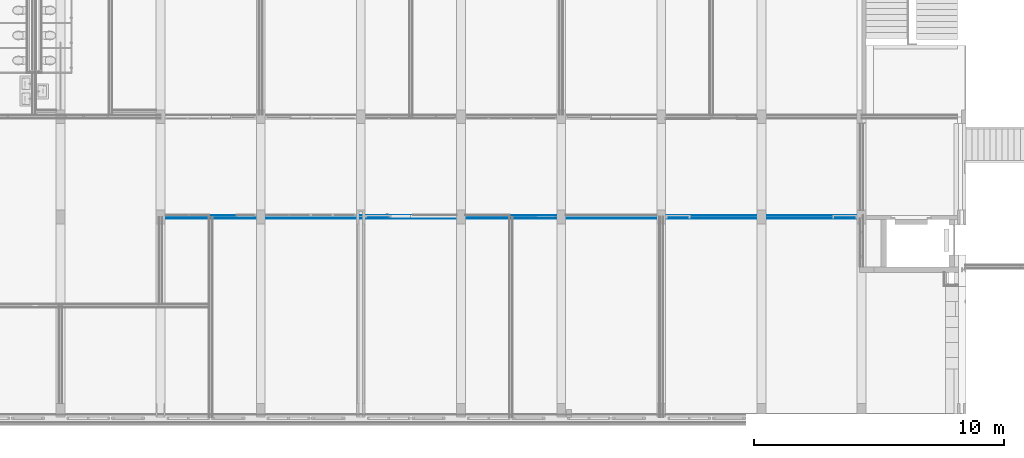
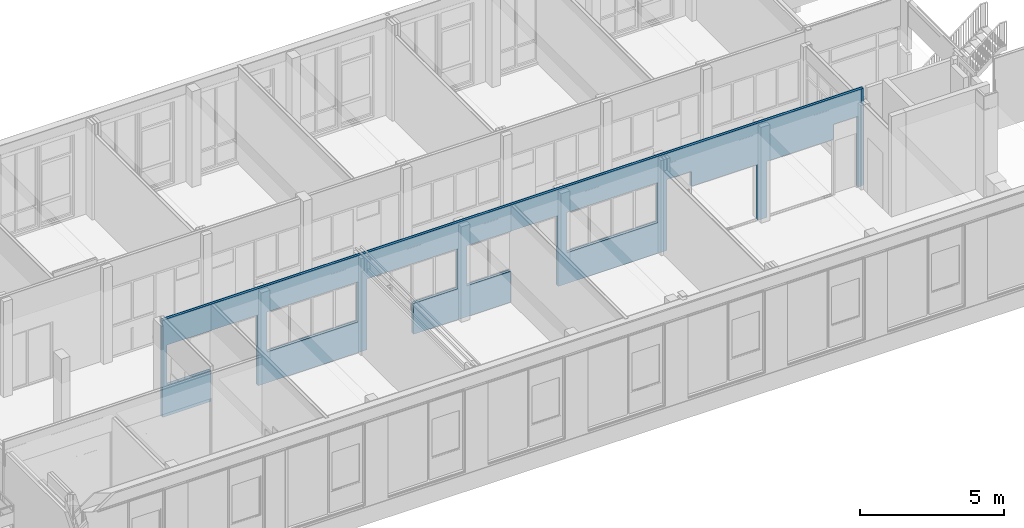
# One storey, part 40 of 94: 4 building element parts, 10 openings, 1 element without a shape of its own.
"""IFC2X3 building model written with IfcOpenShell, lengths in millimetres."""

import ifcopenshell
import ifcopenshell.guid

model = None  # the IFC model being written
_history = None  # IfcOwnerHistory: only IFC2X3 demands one
_inside = {}  # id of a spatial element -> (the spatial element, [elements in it])
_under = {}  # id of a project, library or spatial element -> (it, [spatial elements below it])
_declared = {}  # id of a project -> (the project, [libraries it declares])
_typed = {}  # id of a type object -> (the type object, [elements of that type])
_made_of = {}  # id of a material, layer set ... -> (it, [elements and type objects made of it])


def new_model(schema):
    """Start an empty IFC model of exactly this schema.

    Asked for "IFC4X3", IfcOpenShell would pick the latest addendum, in which some entities
    have other attributes; the version numbers below select the first issue.
    IFC2X3 requires an IfcOwnerHistory on every rooted entity: one is made here for all.
    """
    global model, _history
    if schema == "IFC4X3":
        model = ifcopenshell.file(schema_version=(4, 3, 0, 0))
    else:
        model = ifcopenshell.file(schema=schema)
    _inside.clear()
    _under.clear()
    _declared.clear()
    _typed.clear()
    _made_of.clear()
    _history = None
    if model.schema == "IFC2X3":
        org = make("IfcOrganization", Name="unknown")
        user = make(
            "IfcPersonAndOrganization",
            ThePerson=make("IfcPerson", FamilyName="unknown"),
            TheOrganization=org,
        )
        app = make(
            "IfcApplication",
            ApplicationDeveloper=org,
            Version="unknown",
            ApplicationFullName="unknown",
            ApplicationIdentifier="unknown",
        )
        _history = make(
            "IfcOwnerHistory",
            OwningUser=user,
            OwningApplication=app,
            ChangeAction="ADDED",
            CreationDate=0,
        )
    return model


def make(cls, **values):
    """One entity of the class cls with the attributes given. An attribute that is None is left unset."""
    return model.create_entity(
        cls, **{name: value for name, value in values.items() if value is not None}
    )


def entity(cls, *values):
    """Any entity or typed value of the class cls, its attributes in the order of the schema. None: left unset."""
    e = model.create_entity(cls)
    for i, value in enumerate(values):
        if value is not None:
            e[i] = value
    return e


def rooted(cls, **values):
    """An entity with a GlobalId (a new one), such as an element, a storey or a relation."""
    return make(cls, GlobalId=ifcopenshell.guid.new(), OwnerHistory=_history, **values)


def si_unit(unit_type, name, prefix=None):
    """IfcSIUnit, for example si_unit("LENGTHUNIT", "METRE", prefix="MILLI")."""
    return make("IfcSIUnit", UnitType=unit_type, Prefix=prefix, Name=name)


def converted_unit(unit_type, name, factor, base, dimensions=None, offset=None):
    """IfcConversionBasedUnit, such as the inch: factor (a typed value) times the base unit."""
    return make(
        "IfcConversionBasedUnit"
        if offset is None
        else "IfcConversionBasedUnitWithOffset",
        ConversionOffset=offset,
        Dimensions=None
        if dimensions is None
        else entity("IfcDimensionalExponents", *dimensions),
        UnitType=unit_type,
        Name=name,
        ConversionFactor=make(
            "IfcMeasureWithUnit", ValueComponent=factor, UnitComponent=base
        ),
    )


def derived_unit(unit_type, elements):
    """IfcDerivedUnit: a product of units, each with its exponent."""
    return make(
        "IfcDerivedUnit",
        Elements=[
            make("IfcDerivedUnitElement", Unit=unit, Exponent=power)
            for unit, power in elements
        ],
        UnitType=unit_type,
    )


def money_unit(currency):
    """IfcMonetaryUnit."""
    return make("IfcMonetaryUnit", Currency=currency)


def assignment(units):
    """IfcUnitAssignment: the units of a project."""
    return None if units is None else make("IfcUnitAssignment", Units=units)


def point(xyz):
    """IfcCartesianPoint."""
    return None if xyz is None else make("IfcCartesianPoint", Coordinates=xyz)


def direction(xyz):
    """IfcDirection."""
    return None if xyz is None else make("IfcDirection", DirectionRatios=xyz)


def frame(location, z_axis=None, x_axis=None):
    """IfcAxis2Placement3D, a coordinate frame: its origin and axes. An axis left out is left unset."""
    return make(
        "IfcAxis2Placement3D",
        Location=point(location),
        Axis=direction(z_axis),
        RefDirection=direction(x_axis),
    )


def origin_with_axes():
    """The frame at (0, 0, 0) with the z axis (0, 0, 1) and the x axis (1, 0, 0) written out."""
    return frame((0.0, 0.0, 0.0), z_axis=(0.0, 0.0, 1.0), x_axis=(1.0, 0.0, 0.0))


def place(relative_to, where):
    """IfcLocalPlacement: puts the frame where relative to a parent placement (None: the world)."""
    return make(
        "IfcLocalPlacement", PlacementRelTo=relative_to, RelativePlacement=where
    )


def context(
    kind, dimensions, precision=None, world=None, true_north=None, identifier=None
):
    """IfcGeometricRepresentationContext, for example the 3D "Model" context."""
    return make(
        "IfcGeometricRepresentationContext",
        ContextIdentifier=identifier,
        ContextType=kind,
        CoordinateSpaceDimension=dimensions,
        Precision=precision,
        WorldCoordinateSystem=world,
        TrueNorth=true_north,
    )


def subcontext(parent, identifier, kind, view, scale=None):
    """IfcGeometricRepresentationSubContext, for example "Body" below "Model"."""
    return make(
        "IfcGeometricRepresentationSubContext",
        ContextIdentifier=identifier,
        ContextType=kind,
        ParentContext=parent,
        TargetScale=scale,
        TargetView=view,
    )


def project(units=None, contexts=None):
    """IfcProject with its units and contexts."""
    return rooted(
        "IfcProject",
        Name="project",
        RepresentationContexts=contexts,
        UnitsInContext=assignment(units),
    )


def spatial(cls, under=None, at=None, **own):
    """A site, building, storey or space (cls), placed at a placement, below another one or the project."""
    s = rooted(cls, ObjectPlacement=at, **own)
    if under is not None:
        _under.setdefault(under.id(), (under, []))[1].append(s)
    return s


def faces_of(points, faces, orient=None, outer=None):
    """IfcFace entities. A face is a list of loops; a loop is a list of indices into points, from 0.

    orient and outer hold one flag for each loop. By default every Orientation is true, the
    first loop of a face is its IfcFaceOuterBound and the others are IfcFaceBound.
    """
    made = []
    for i, loops in enumerate(faces):
        bounds = []
        for j, loop in enumerate(loops):
            is_outer = j == 0 if outer is None else outer[i][j]
            bounds.append(
                make(
                    "IfcFaceOuterBound" if is_outer else "IfcFaceBound",
                    Bound=make("IfcPolyLoop", Polygon=[points[k] for k in loop]),
                    Orientation=True if orient is None else orient[i][j],
                )
            )
        made.append(make("IfcFace", Bounds=bounds))
    return made


def faceted_brep(points, faces, orient=None, outer=None, voids=None):
    """IfcFacetedBrep: a solid bounded by flat faces; with voids (closed shells), ...WithVoids."""
    shared = [point(p) for p in points]
    hull = make("IfcClosedShell", CfsFaces=faces_of(shared, faces, orient, outer))
    if voids is None:
        return make("IfcFacetedBrep", Outer=hull)
    return make(
        "IfcFacetedBrepWithVoids",
        Outer=hull,
        Voids=[
            make(cls, CfsFaces=faces_of(shared, fs, o, b)) for cls, fs, o, b in voids
        ],
    )


def shape(context_of_items, identifier, shape_type, items):
    """IfcShapeRepresentation: the items that make up one representation, for example the "Body"."""
    return make(
        "IfcShapeRepresentation",
        ContextOfItems=context_of_items,
        RepresentationIdentifier=identifier,
        RepresentationType=shape_type,
        Items=items,
    )


def material(Name=None, Category=None):
    """IfcMaterial."""
    return make("IfcMaterial", Name=Name, Category=Category)


def made_of(thing, what):
    """Note that an element or type object is made of a material, layer set ...; save() writes the relation."""
    if what is not None:
        _made_of.setdefault(what.id(), (what, []))[1].append(thing)
    return thing


def type_object(cls, material=None, **own):
    """A type object (cls), such as IfcWallType, which elements share."""
    return made_of(rooted(cls, **own), material)


def element(
    cls,
    number,
    at=None,
    inside=None,
    cuts=None,
    type_object=None,
    material=None,
    context=None,
    identifier="Body",
    shape_type=None,
    held_by="IfcProductDefinitionShape",
    body=None,
    shapes=None,
    **own,
):
    """One element of the class cls, such as IfcWall. Its Tag is "e" and its number.

    at: its placement. inside: the storey or other place that contains it. cuts: it is an
    opening in that element (IfcRelVoidsElement). A single representation is given by context,
    identifier, shape_type and body (its items); several are given by shapes. held_by: the class
    of the entity that holds the representations. save() writes the other relations.
    """
    e = rooted(cls, Tag="e%d" % number, ObjectPlacement=at, **own)
    if body is not None:
        shapes = [shape(context, identifier, shape_type, body)]
    if shapes is not None:
        e.Representation = make(held_by, Representations=shapes)
    if inside is not None:
        _inside.setdefault(inside.id(), (inside, []))[1].append(e)
    if cuts is not None:
        rooted(
            "IfcRelVoidsElement", RelatingBuildingElement=cuts, RelatedOpeningElement=e
        )
    if type_object is not None:
        _typed.setdefault(type_object.id(), (type_object, []))[1].append(e)
    return made_of(e, material)


def aggregate(whole, parts):
    """IfcRelAggregates: a whole, such as a stair, and the parts it consists of."""
    return rooted("IfcRelAggregates", RelatingObject=whole, RelatedObjects=parts)


def save(model, path):
    """Write the relations noted so far, then the file.

    IfcRelAggregates (storeys below a building ...), IfcRelContainedInSpatialStructure (elements
    in a storey), IfcRelDefinesByType, IfcRelAssociatesMaterial and IfcRelDeclares: one each for
    every whole, place, type object, material and project.
    """
    for whole, parts in _under.values():
        aggregate(whole, parts)
    for where, things in _inside.values():
        rooted(
            "IfcRelContainedInSpatialStructure",
            RelatedElements=things,
            RelatingStructure=where,
        )
    for kind, things in _typed.values():
        rooted("IfcRelDefinesByType", RelatedObjects=things, RelatingType=kind)
    for what, things in _made_of.values():
        rooted("IfcRelAssociatesMaterial", RelatedObjects=things, RelatingMaterial=what)
    for by, libraries in _declared.values():
        rooted("IfcRelDeclares", RelatingContext=by, RelatedDefinitions=libraries)
    model.write(path)


model = new_model("IFC2X3")

# Units and contexts
model_context = context("Model", 3, precision=0.01, world=origin_with_axes(), true_north=direction((0.0, 1.0)))
body_context = subcontext(model_context, "Body", "Model", "MODEL_VIEW")
ifc_project = project(units=[si_unit("LENGTHUNIT", "METRE", prefix="MILLI"), si_unit("AREAUNIT", "SQUARE_METRE"), si_unit("VOLUMEUNIT", "CUBIC_METRE"), converted_unit("PLANEANGLEUNIT", "DEGREE", entity("IfcPlaneAngleMeasure", 0.0174532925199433), si_unit("PLANEANGLEUNIT", "RADIAN"), dimensions=[0, 0, 0, 0, 0, 0, 0]), money_unit("EUR"), converted_unit("TIMEUNIT", "Year", entity("IfcTimeMeasure", 31557600.0), si_unit("TIMEUNIT", "SECOND"), dimensions=[0, 0, 1, 0, 0, 0, 0]), si_unit("MASSUNIT", "GRAM", prefix="KILO"), si_unit("THERMODYNAMICTEMPERATUREUNIT", "DEGREE_CELSIUS"), si_unit("LUMINOUSINTENSITYUNIT", "LUMEN"), si_unit("ENERGYUNIT", "JOULE", prefix="MEGA"), derived_unit("THERMALCONDUCTANCEUNIT", [(si_unit("POWERUNIT", "WATT"), 1), (si_unit("LENGTHUNIT", "METRE"), -1), (si_unit("THERMODYNAMICTEMPERATUREUNIT", "KELVIN"), -1)]), derived_unit("SPECIFICHEATCAPACITYUNIT", [(si_unit("ENERGYUNIT", "JOULE"), 1), (si_unit("MASSUNIT", "GRAM", prefix="KILO"), -1), (si_unit("THERMODYNAMICTEMPERATUREUNIT", "KELVIN"), -1)]), derived_unit("MASSDENSITYUNIT", [(si_unit("MASSUNIT", "GRAM", prefix="KILO"), 1), (si_unit("VOLUMEUNIT", "CUBIC_METRE"), -1)])], contexts=[model_context])

# Site, building, storey
site_placement = place(None, origin_with_axes())
site = spatial("IfcSite", under=ifc_project, at=site_placement, Name="<site naam>", CompositionType="ELEMENT")
building_placement = place(site_placement, origin_with_axes())
building = spatial("IfcBuilding", under=site, at=building_placement, Name="<Naam gebouw>", CompositionType="ELEMENT")
storey_placement = place(building_placement, frame((0.0, 0.0, 4250.0), z_axis=(0.0, 0.0, 1.0), x_axis=(1.0, 0.0, 0.0)))
storey = spatial("IfcBuildingStorey", under=building, at=storey_placement, Name="01 1e verdieping", CompositionType="ELEMENT", Elevation=4250.0)

# Wall, openings, building element parts
wall_type = type_object("IfcWallType", Name="MS-01 GF 150 ECO DGS/2.100.2.A 150", PredefinedType="NOTDEFINED")
wall_placement = place(storey_placement, frame((20000.00000000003, 8000.000000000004, 0.0), z_axis=(0.0, 0.0, 1.0), x_axis=(1.0, 0.0, 0.0)))
wall = element("IfcWall", 1, at=wall_placement, inside=storey, type_object=wall_type, Name="22_Binnenwand_MS-01")
opening_1_placement = place(wall_placement, frame((5999.950000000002, 0.0, 1300.0), z_axis=(0.0, 0.0, 1.0), x_axis=(1.0, 0.0, 0.0)))
element("IfcOpeningElement", 2, at=opening_1_placement, cuts=wall, Name="22_BI-E-01_305", context=body_context, shape_type="Brep", body=[
    faceted_brep([(-1824.950000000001, -76.00000000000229, 1700.0), (-1824.950000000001, -76.00000000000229, 0.0), (1824.950000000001, -76.00000000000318, 0.0), (1824.950000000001, -76.00000000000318, 1700.0), (-1824.950000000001, 76.00000000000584, 1700.0), (-1824.950000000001, 76.00000000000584, 0.0), (1824.950000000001, 76.00000000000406, 0.0), (1824.950000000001, 76.00000000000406, 1700.0)], [[[0, 1, 2, 3]], [[4, 5, 1, 0]], [[5, 6, 2, 1]], [[6, 7, 3, 2]], [[7, 4, 0, 3]], [[6, 5, 4, 7]]]),
])
opening_2_placement = place(wall_placement, frame((10900.0, 0.0, 1300.0), z_axis=(0.0, 0.0, 1.0), x_axis=(1.0, 0.0, 0.0)))
element("IfcOpeningElement", 3, at=opening_2_placement, cuts=wall, Name="22_BI-E-01_305", context=body_context, shape_type="Brep", body=[
    faceted_brep([(-925.0000000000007, -76.00000000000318, 1700.0), (-925.0000000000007, -76.00000000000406, 0.0), (925.0000000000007, -76.00000000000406, 0.0), (925.0000000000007, -76.00000000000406, 1700.0), (-925.0000000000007, 76.00000000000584, 1700.0), (-925.0000000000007, 76.00000000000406, 0.0), (925.0000000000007, 76.00000000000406, 0.0), (925.0000000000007, 76.00000000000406, 1700.0)], [[[0, 1, 2, 3]], [[4, 5, 1, 0]], [[5, 6, 2, 1]], [[6, 7, 3, 2]], [[7, 4, 0, 3]], [[6, 5, 4, 7]]]),
])
opening_3_placement = place(wall_placement, frame((17999.95, 0.0, 1300.0), z_axis=(0.0, 0.0, 1.0), x_axis=(1.0, 0.0, 0.0)))
element("IfcOpeningElement", 4, at=opening_3_placement, cuts=wall, Name="22_BI-E-01_305", context=body_context, shape_type="Brep", body=[
    faceted_brep([(-1824.950000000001, -76.00000000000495, 1700.0), (-1824.950000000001, -76.00000000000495, 0.0), (1824.950000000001, -76.00000000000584, 0.0), (1824.950000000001, -76.00000000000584, 1700.0), (-1824.950000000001, 76.00000000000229, 1700.0), (-1824.950000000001, 76.00000000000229, 0.0), (1824.950000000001, 76.00000000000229, 0.0), (1824.950000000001, 76.00000000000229, 1700.0)], [[[0, 1, 2, 3]], [[4, 5, 1, 0]], [[5, 6, 2, 1]], [[6, 7, 3, 2]], [[7, 4, 0, 3]], [[6, 5, 4, 7]]]),
])
opening_4_placement = place(wall_placement, frame((20667.0, 0.0, 0.0), z_axis=(0.0, 0.0, 1.0), x_axis=(1.0, 0.0, 0.0)))
element("IfcOpeningElement", 5, at=opening_4_placement, cuts=wall, Name="22_BI-E-04_305", context=body_context, shape_type="Brep", body=[
    faceted_brep([(-491.9999999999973, -76.00000000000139, 3000.0), (-491.9999999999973, -76.00000000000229, 0.0), (491.9999999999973, -76.00000000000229, 0.0), (491.9999999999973, -76.00000000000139, 3000.0), (-491.9999999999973, 75.99999999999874, 3000.0), (-491.9999999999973, 75.99999999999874, 0.0), (491.9999999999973, 75.99999999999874, 0.0), (491.9999999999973, 75.99999999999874, 3000.0)], [[[0, 1, 2, 3]], [[4, 5, 1, 0]], [[5, 6, 2, 1]], [[6, 7, 3, 2]], [[7, 4, 0, 3]], [[6, 5, 4, 7]]]),
])
opening_5_placement = place(wall_placement, frame((9108.499962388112, 0.0, 0.0), z_axis=(0.0, 0.0, 1.0), x_axis=(1.0, 0.0, 0.0)))
element("IfcOpeningElement", 6, at=opening_5_placement, cuts=wall, Name="22_BI-E-02_305", context=body_context, shape_type="Brep", body=[
    faceted_brep([(-933.4999999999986, -76.00000000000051, 3000.0), (-933.4999999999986, -76.00000000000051, 0.0), (933.4999999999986, -76.00000000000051, 0.0), (933.4999999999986, -76.00000000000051, 3000.0), (-933.4999999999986, 75.99999999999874, 3000.0), (-933.4999999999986, 75.99999999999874, 0.0), (933.4999999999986, 75.99999999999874, 0.0), (933.4999999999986, 75.99999999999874, 3000.0)], [[[0, 1, 2, 3]], [[4, 5, 1, 0]], [[5, 6, 2, 1]], [[6, 7, 3, 2]], [[7, 4, 0, 3]], [[6, 5, 4, 7]]]),
])
opening_6_placement = place(wall_placement, frame((1999.999999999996, 0.0, 0.0), z_axis=(0.0, 0.0, 1.0), x_axis=(1.0, 0.0, 0.0)))
element("IfcOpeningElement", 7, at=opening_6_placement, cuts=wall, Name="22_BI-E-03_305", context=body_context, shape_type="Brep", body=[
    faceted_brep([(-1825.000000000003, -76.00000000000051, 3000.0), (-1825.000000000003, -76.00000000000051, 1300.0), (-58.86501235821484, -76.00000000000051, 1300.0), (-58.86501235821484, -76.00000000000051, 0.0), (1825.000000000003, -76.00000000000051, 0.0), (1825.000000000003, -76.00000000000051, 3000.0), (-1825.000000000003, 75.99999999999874, 3000.0), (-1825.000000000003, 75.99999999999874, 1300.0), (-58.86501235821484, 75.99999999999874, 1300.0), (-58.86501235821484, 75.99999999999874, 0.0), (1825.000000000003, 75.99999999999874, 0.0), (1825.000000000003, 75.99999999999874, 3000.0)], [[[0, 1, 2, 3, 4, 5]], [[6, 7, 1, 0]], [[7, 8, 2, 1]], [[8, 9, 3, 2]], [[9, 10, 4, 3]], [[10, 11, 5, 4]], [[11, 6, 0, 5]], [[8, 7, 6, 11, 10, 9]]]),
])
opening_7_placement = place(wall_placement, frame((22491.99999999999, 0.0, 0.0), z_axis=(0.0, 0.0, 1.0), x_axis=(1.0, 0.0, 0.0)))
element("IfcOpeningElement", 8, at=opening_7_placement, cuts=wall, Name="22_vitrine_305", context=body_context, shape_type="Brep", body=[
    faceted_brep([(-1333.000000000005, -76.00000000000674, 2367.0), (-1333.000000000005, -76.00000000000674, 0.0), (1333.000000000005, -76.00000000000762, 0.0), (1333.000000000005, -76.00000000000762, 2367.0), (-1333.000000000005, 76.00000000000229, 2367.0), (-1333.000000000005, 76.00000000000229, 0.0), (1333.000000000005, 76.00000000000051, 0.0), (1333.000000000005, 76.00000000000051, 2367.0)], [[[0, 1, 2, 3]], [[4, 5, 1, 0]], [[5, 6, 2, 1]], [[6, 7, 3, 2]], [[7, 4, 0, 3]], [[6, 5, 4, 7]]]),
])
opening_8_placement = place(wall_placement, frame((27333.0, 0.0, 0.0), z_axis=(0.0, 0.0, 1.0), x_axis=(1.0, 0.0, 0.0)))
element("IfcOpeningElement", 9, at=opening_8_placement, cuts=wall, Name="22_BI-E-04 sp_305", context=body_context, shape_type="Brep", body=[
    faceted_brep([(-491.9999999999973, -76.00000000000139, 3000.0), (-491.9999999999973, -76.00000000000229, 0.0), (491.9999999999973, -76.00000000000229, 0.0), (491.9999999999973, -76.00000000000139, 3000.0), (-491.9999999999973, 75.99999999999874, 3000.0), (-491.9999999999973, 75.99999999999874, 0.0), (491.9999999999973, 75.99999999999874, 0.0), (491.9999999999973, 75.99999999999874, 3000.0)], [[[0, 1, 2, 3]], [[4, 5, 1, 0]], [[5, 6, 2, 1]], [[6, 7, 3, 2]], [[7, 4, 0, 3]], [[6, 5, 4, 7]]]),
])
opening_9_placement = place(wall_placement, frame((25508.0, 0.0, 0.0), z_axis=(0.0, 0.0, 1.0), x_axis=(1.0, 0.0, 0.0)))
element("IfcOpeningElement", 10, at=opening_9_placement, cuts=wall, Name="22_vitrine_305", context=body_context, shape_type="Brep", body=[
    faceted_brep([(-1333.000000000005, -76.0000000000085, 2367.0), (-1333.000000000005, -76.0000000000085, 0.0), (1333.000000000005, -76.0000000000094, 0.0), (1333.000000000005, -76.0000000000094, 2367.0), (-1333.000000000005, 76.00000000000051, 2367.0), (-1333.000000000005, 76.00000000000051, 0.0), (1333.000000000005, 75.99999999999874, 0.0), (1333.000000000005, 75.99999999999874, 2367.0)], [[[0, 1, 2, 3]], [[4, 5, 1, 0]], [[5, 6, 2, 1]], [[6, 7, 3, 2]], [[7, 4, 0, 3]], [[6, 5, 4, 7]]]),
])
opening_10_placement = place(wall_placement, frame((14000.0, 0.0, 0.0), z_axis=(0.0, 0.0, 1.0), x_axis=(1.0, 0.0, 0.0)))
element("IfcOpeningElement", 11, at=opening_10_placement, cuts=wall, Name="22_BI-E-03_305", context=body_context, shape_type="Brep", body=[
    faceted_brep([(-1825.000000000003, -76.00000000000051, 3000.0), (-1825.000000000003, -76.00000000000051, 1300.0), (-58.86501235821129, -76.00000000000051, 1300.0), (-58.86501235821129, -76.00000000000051, 0.0), (1825.000000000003, -76.00000000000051, 0.0), (1825.000000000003, -76.00000000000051, 3000.0), (-1825.000000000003, 75.99999999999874, 3000.0), (-1825.000000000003, 75.99999999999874, 1300.0), (-58.86501235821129, 75.99999999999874, 1300.0), (-58.86501235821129, 75.99999999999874, 0.0), (1825.000000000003, 75.99999999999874, 0.0), (1825.000000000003, 75.99999999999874, 3000.0)], [[[0, 1, 2, 3, 4, 5]], [[6, 7, 1, 0]], [[7, 8, 2, 1]], [[8, 9, 3, 2]], [[9, 10, 4, 3]], [[10, 11, 5, 4]], [[11, 6, 0, 5]], [[8, 7, 6, 11, 10, 9]]]),
])
ifc_material_1 = material(Name="gipsplaat")
building_element_part_1_placement = place(wall_placement, origin_with_axes())
building_element_part_1 = element("IfcBuildingElementPart", 12, at=building_element_part_1_placement, material=ifc_material_1, Name="gipsplaat", context=body_context, shape_type="Brep", body=[
    faceted_brep([(27824.84546316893, 69.65970006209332, 0.0), (27824.84546316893, 69.65970006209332, 3.000000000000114), (27825.00000000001, 69.65970006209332, 3.000000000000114), (27825.00000000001, 69.65970006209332, 0.0), (27824.84546316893, 62.50000000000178, 0.0), (27824.84546316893, 62.50000000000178, 3.000000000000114), (26802.24525226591, 62.50000000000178, 3.000000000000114), (26802.24525226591, 69.65970006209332, 3.000000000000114), (24175.0, 69.65970006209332, 3.000000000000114), (24175.0, 75.00000000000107, 3.000000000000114), (27825.00000000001, 75.00000000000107, 3.000000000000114), (27825.00000000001, 75.00000000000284, 0.0), (28074.99999999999, 75.00000000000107, 0.0), (28074.99999999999, 62.50000000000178, 0.0), (28074.99999999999, 62.50000000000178, 4100.0), (0.0, 62.5, 4100.0), (0.0, 62.5, 0.0), (2075.011460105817, 62.5, 0.0), (2075.011460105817, 62.5, 3.000000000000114), (3065.428474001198, 62.5, 3.000000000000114), (3065.428474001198, 62.5, 0.0), (20174.84544567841, 62.50000000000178, 0.0), (20174.84544567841, 62.50000000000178, 3.000000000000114), (21233.16318385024, 62.5, 3.000000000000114), (21233.16318385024, 62.50000000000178, 0.0), (26802.24525226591, 62.50000000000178, 0.0), (8174.999962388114, 62.5, 1.999999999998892), (8174.999962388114, 62.5, 4.999999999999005), (10081.0, 62.5, 4.999999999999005), (10081.0, 62.5, 1.999999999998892), (14075.00014170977, 62.5, 19.99999999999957), (14075.00014170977, 62.5, 22.99999999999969), (15067.27063228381, 62.5, 22.99999999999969), (15067.27063228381, 62.5, 19.99999999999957), (26802.24525226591, 69.65970006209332, 0.0), (24175.0, 69.65970006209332, 0.0), (24175.0, 75.00000000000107, 0.0), (20174.84544567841, 75.00002980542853, 3.000000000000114), (20174.84544567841, 75.00002980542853, 0.0), (19824.99999999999, 75.00000000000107, 0.0), (19824.99999999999, 75.00000000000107, 3.000000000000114), (16175.0, 74.99999999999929, 3.000000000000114), (16175.0, 74.99999999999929, 0.0), (15824.99999999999, 74.99999999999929, 0.0), (15824.99999999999, 75.00000000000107, 3.000000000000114), (12175.0, 74.99999999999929, 3.000000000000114), (12175.0, 74.99999999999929, 0.0), (11824.99999999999, 74.99999999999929, 0.0), (11824.99999999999, 74.99999999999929, 3.000000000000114), (10081.0, 74.99999999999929, 3.000000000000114), (10081.0, 74.99999999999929, 4.999999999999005), (8174.999962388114, 74.99999999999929, 4.999999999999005), (8174.999962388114, 74.99999999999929, 3.000000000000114), (8175.000000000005, 74.99999999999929, 0.0), (7825.000000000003, 74.99999999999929, 0.0), (7825.000000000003, 74.99999999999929, 3.000000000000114), (4175.000000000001, 74.99999999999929, 3.000000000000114), (4175.000000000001, 74.99999999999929, 0.0), (3824.999999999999, 74.99999999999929, 0.0), (3824.999999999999, 74.99999999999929, 3.000000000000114), (175.0000000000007, 74.99999999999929, 3.000000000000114), (175.0000000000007, 74.99999999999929, 0.0), (0.0, 74.99999999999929, 0.0), (0.0, 75.00000000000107, 4100.0), (28074.99999999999, 75.00000000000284, 4100.0), (23824.99999999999, 75.00000000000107, 0.0), (23824.99999999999, 75.00000000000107, 3.000000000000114), (20175.0, 75.00002980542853, 3.000000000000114), (175.0000000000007, 74.99999999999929, 3000.0), (3825.000000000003, 74.99999999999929, 3000.0), (3825.000000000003, 74.99999999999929, 3040.0), (175.0000000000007, 74.99999999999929, 3040.0), (4175.000000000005, 74.99999999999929, 3000.0), (7824.999999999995, 74.99999999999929, 3000.0), (7824.999999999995, 74.99999999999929, 3040.0), (4175.000000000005, 74.99999999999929, 3040.0), (8174.999999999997, 74.99999999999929, 3000.0), (11825.00000000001, 74.99999999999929, 3000.0), (11825.00000000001, 75.00000000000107, 3040.0), (8174.999999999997, 74.99999999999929, 3040.0), (12175.0, 75.00000000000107, 3000.0), (15825.00000000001, 75.00000000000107, 3000.0), (15825.00000000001, 75.00000000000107, 3040.0), (12175.0, 74.99999999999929, 3040.0), (16175.0, 75.00000000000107, 3000.0), (19825.00000000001, 75.00000000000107, 3000.0), (19825.00000000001, 75.00000000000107, 3040.0), (16175.0, 75.00000000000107, 3040.0), (20175.0, 75.00000000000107, 3000.0), (23825.00000000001, 75.00000000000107, 3000.0), (23825.00000000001, 75.00000000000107, 3040.0), (20175.0, 75.00000000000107, 3040.0), (24175.0, 75.00000000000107, 3000.0), (27825.00000000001, 75.00000000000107, 3000.0), (27825.00000000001, 75.00000000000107, 3040.0), (24175.0, 75.00000000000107, 3040.0), (14075.00014170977, 74.99999999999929, 19.99999999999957), (15067.27063228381, 75.00000000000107, 19.99999999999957), (15067.27063228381, 75.00000000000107, 22.99999999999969), (14075.00014170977, 74.99999999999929, 22.99999999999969), (2075.011470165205, 69.65970006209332, 0.0), (175.0000000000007, 69.65970006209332, 0.0), (2075.011470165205, 69.65970006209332, 3.000000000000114), (3065.428474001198, 69.65970006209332, 3.000000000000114), (175.0000000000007, 69.65970006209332, 3.000000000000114), (3824.999999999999, 69.65970006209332, 3.000000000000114), (3065.428474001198, 69.65970006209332, 0.0), (3824.999999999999, 69.65970006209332, 0.0), (4175.000000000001, 69.65970006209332, 0.0), (7825.000000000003, 69.65970006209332, 0.0), (8175.000000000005, 69.65970006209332, 0.0), (11824.99999999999, 69.65970006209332, 0.0), (12175.0, 69.65970006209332, 0.0), (15824.99999999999, 69.65970006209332, 0.0), (16175.0, 69.65970006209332, 0.0), (19824.99999999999, 69.65970006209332, 0.0), (23824.99999999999, 69.65970006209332, 3.000000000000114), (21233.16318385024, 69.65970006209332, 3.000000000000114), (21233.16318385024, 69.65970006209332, 0.0), (23824.99999999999, 69.65970006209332, 0.0), (8174.999962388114, 69.65970006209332, 1.999999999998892), (8174.999962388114, 69.65970006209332, 3.000000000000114), (10081.0, 69.65970006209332, 3.000000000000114), (10081.0, 69.65970006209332, 1.999999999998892), (19824.99999999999, 69.65970006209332, 3.000000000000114), (16175.0, 69.65970006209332, 3.000000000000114), (15824.99999999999, 69.65970006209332, 3.000000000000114), (12175.0, 69.65970006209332, 3.000000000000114), (11824.99999999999, 69.65970006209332, 3.000000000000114), (7825.000000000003, 69.65970006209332, 3.000000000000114), (4175.000000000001, 69.65970006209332, 3.000000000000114), (175.0000000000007, 74.4359511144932, 3000.0), (3825.000000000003, 74.4359511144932, 3000.0), (3825.000000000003, 74.4359511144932, 3040.0), (175.0000000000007, 74.4359511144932, 3040.0), (4175.000000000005, 74.4359511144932, 3000.0), (7824.999999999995, 74.4359511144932, 3000.0), (7824.999999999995, 74.4359511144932, 3040.0), (4175.000000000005, 74.4359511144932, 3040.0), (8174.999999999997, 74.4359511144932, 3000.0), (11825.00000000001, 74.4359511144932, 3000.0), (11825.00000000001, 74.4359511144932, 3040.0), (8174.999999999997, 74.4359511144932, 3040.0), (12175.0, 74.4359511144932, 3000.0), (15825.00000000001, 74.4359511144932, 3000.0), (15825.00000000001, 74.4359511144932, 3040.0), (12175.0, 74.4359511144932, 3040.0), (16175.0, 74.4359511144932, 3000.0), (19825.00000000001, 74.4359511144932, 3000.0), (19825.00000000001, 74.4359511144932, 3040.0), (16175.0, 74.4359511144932, 3040.0), (20175.0, 74.4359511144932, 3000.0), (23825.00000000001, 74.4359511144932, 3000.0), (23825.00000000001, 74.4359511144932, 3040.0), (20175.0, 74.4359511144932, 3040.0), (24175.0, 74.4359511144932, 3000.0), (27825.00000000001, 74.4359511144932, 3000.0), (27825.00000000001, 74.4359511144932, 3040.0), (24175.0, 74.4359511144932, 3040.0)], [[[0, 1, 2, 3]], [[1, 0, 4, 5]], [[1, 5, 6, 7, 8, 9, 10, 2]], [[10, 11, 3, 2]], [[4, 0, 3, 11, 12, 13]], [[5, 4, 13, 14, 15, 16, 17, 18, 19, 20, 21, 22, 23, 24, 25, 6], [26, 27, 28, 29], [30, 31, 32, 33]], [[34, 7, 6, 25]], [[7, 34, 35, 8]], [[36, 9, 8, 35]], [[37, 38, 39, 40, 41, 42, 43, 44, 45, 46, 47, 48, 49, 50, 51, 52, 53, 54, 55, 56, 57, 58, 59, 60, 61, 62, 63, 64, 12, 11, 10, 9, 36, 65, 66, 67], [68, 69, 70, 71], [72, 73, 74, 75], [76, 77, 78, 79], [80, 81, 82, 83], [84, 85, 86, 87], [88, 89, 90, 91], [92, 93, 94, 95], [96, 97, 98, 99]], [[13, 12, 64, 14]], [[14, 64, 63, 15]], [[63, 62, 16, 15]], [[100, 17, 16, 62, 61, 101]], [[100, 102, 18, 17]], [[103, 19, 18, 102, 104, 60, 59, 105]], [[103, 106, 20, 19]], [[38, 21, 20, 106, 107, 58, 57, 108, 109, 54, 53, 110, 111, 47, 46, 112, 113, 43, 42, 114, 115, 39]], [[38, 37, 22, 21]], [[67, 66, 116, 117, 23, 22, 37]], [[117, 118, 24, 23]], [[34, 25, 24, 118, 119, 65, 36, 35]], [[52, 51, 27, 26, 120, 121]], [[51, 50, 28, 27]], [[50, 49, 122, 123, 29, 28]], [[123, 120, 26, 29]], [[96, 99, 31, 30]], [[99, 98, 32, 31]], [[98, 97, 33, 32]], [[97, 96, 30, 33]], [[40, 39, 115, 124]], [[41, 40, 124, 125]], [[42, 41, 125, 114]], [[44, 43, 113, 126]], [[45, 44, 126, 127]], [[46, 45, 127, 112]], [[48, 47, 111, 128]], [[122, 49, 48, 128]], [[121, 120, 110, 53, 52]], [[55, 54, 109, 129]], [[56, 55, 129, 130]], [[57, 56, 130, 108]], [[59, 58, 107, 105]], [[61, 60, 104, 101]], [[66, 65, 119, 116]], [[69, 68, 131, 132]], [[70, 69, 132, 133]], [[71, 70, 133, 134]], [[68, 71, 134, 131]], [[73, 72, 135, 136]], [[74, 73, 136, 137]], [[75, 74, 137, 138]], [[72, 75, 138, 135]], [[77, 76, 139, 140]], [[78, 77, 140, 141]], [[79, 78, 141, 142]], [[76, 79, 142, 139]], [[81, 80, 143, 144]], [[82, 81, 144, 145]], [[83, 82, 145, 146]], [[80, 83, 146, 143]], [[85, 84, 147, 148]], [[86, 85, 148, 149]], [[87, 86, 149, 150]], [[84, 87, 150, 147]], [[89, 88, 151, 152]], [[90, 89, 152, 153]], [[91, 90, 153, 154]], [[88, 91, 154, 151]], [[93, 92, 155, 156]], [[94, 93, 156, 157]], [[95, 94, 157, 158]], [[92, 95, 158, 155]], [[102, 100, 101, 104]], [[106, 103, 105, 107]], [[109, 108, 130, 129]], [[123, 122, 128, 111, 110, 120]], [[113, 112, 127, 126]], [[115, 114, 125, 124]], [[118, 117, 116, 119]], [[133, 132, 131, 134]], [[137, 136, 135, 138]], [[142, 141, 140, 139]], [[143, 146, 145, 144]], [[148, 147, 150, 149]], [[153, 152, 151, 154]], [[158, 157, 156, 155]]]),
])
building_element_part_2_placement = place(wall_placement, origin_with_axes())
building_element_part_2 = element("IfcBuildingElementPart", 13, at=building_element_part_2_placement, material=ifc_material_1, Name="gipsplaat", context=body_context, shape_type="Brep", body=[
    faceted_brep([(26802.24525226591, 62.50000000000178, 3.000000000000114), (26802.24525226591, 62.50000000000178, 0.0), (21233.16318385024, 62.50000000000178, 0.0), (21233.16318385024, 62.50000000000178, 3.000000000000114), (20174.84544567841, 62.50000000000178, 3.000000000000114), (20174.84544567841, 62.50000000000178, 0.0), (3065.428474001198, 62.5, 0.0), (3065.428474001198, 62.5, 3.000000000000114), (2075.011460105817, 62.5, 3.000000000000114), (2075.011460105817, 62.5, 0.0), (0.0, 62.5, 0.0), (0.0, 62.5, 4100.0), (28062.49999999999, 62.50000000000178, 4100.0), (28062.49999999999, 62.50000000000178, 0.0), (27824.84546316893, 62.50000000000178, 0.0), (27824.84546316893, 62.50000000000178, 3.000000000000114), (8174.999962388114, 62.5, 1.999999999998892), (10081.0, 62.5, 1.999999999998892), (10081.0, 62.5, 4.999999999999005), (8174.999962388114, 62.5, 4.999999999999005), (14075.00014170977, 62.5, 19.99999999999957), (15067.27063228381, 62.50000000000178, 19.99999999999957), (15067.27063228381, 62.50000000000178, 22.99999999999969), (14075.00014170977, 62.5, 22.99999999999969), (26802.24525226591, 50.00000000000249, 3.000000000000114), (26802.24525226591, 50.00000000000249, 0.0), (21233.16318385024, 50.00000000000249, 0.0), (21233.16318385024, 50.00000000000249, 3.000000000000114), (20174.84544567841, 50.00000000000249, 3.000000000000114), (20174.84544567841, 50.00000000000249, 0.0), (3065.428474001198, 50.00000000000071, 0.0), (3065.428474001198, 50.00000000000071, 3.000000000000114), (2075.011442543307, 50.00000000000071, 3.000000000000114), (2075.011442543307, 50.00000000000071, 0.0), (0.0, 50.00000000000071, 0.0), (0.0, 50.00000000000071, 4100.0), (28062.49999999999, 50.00000000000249, 4100.0), (28062.49999999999, 50.00000000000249, 0.0), (27824.84546316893, 50.00000000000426, 0.0), (27824.84546316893, 50.00000000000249, 3.000000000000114), (8174.999962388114, 50.00000000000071, 1.999999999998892), (10081.0, 50.00000000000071, 1.999999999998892), (10081.0, 50.00000000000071, 4.999999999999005), (8174.999962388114, 50.00000000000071, 4.999999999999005), (14075.00014170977, 50.00000000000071, 19.99999999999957), (15067.27063228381, 50.00000000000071, 19.99999999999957), (15067.27063228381, 50.00000000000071, 22.99999999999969), (14075.00014170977, 50.00000000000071, 22.99999999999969)], [[[0, 1, 2, 3, 4, 5, 6, 7, 8, 9, 10, 11, 12, 13, 14, 15], [16, 17, 18, 19], [20, 21, 22, 23]], [[1, 0, 24, 25]], [[1, 25, 26, 2]], [[3, 2, 26, 27]], [[4, 3, 27, 28]], [[5, 4, 28, 29]], [[5, 29, 30, 6]], [[7, 6, 30, 31]], [[8, 7, 31, 32]], [[9, 8, 32, 33]], [[9, 33, 34, 10]], [[11, 10, 34, 35]], [[36, 12, 11, 35]], [[37, 13, 12, 36]], [[38, 14, 13, 37]], [[15, 14, 38, 39]], [[0, 15, 39, 24]], [[17, 16, 40, 41]], [[18, 17, 41, 42]], [[19, 18, 42, 43]], [[16, 19, 43, 40]], [[21, 20, 44, 45]], [[22, 21, 45, 46]], [[23, 22, 46, 47]], [[20, 23, 47, 44]], [[39, 38, 37, 36, 35, 34, 33, 32, 31, 30, 29, 28, 27, 26, 25, 24], [40, 43, 42, 41], [44, 47, 46, 45]]]),
])
ifc_material_2 = material(Name="isolatie_steenwol LSW")
building_element_part_3_placement = place(wall_placement, origin_with_axes())
building_element_part_3 = element("IfcBuildingElementPart", 14, at=building_element_part_3_placement, material=ifc_material_2, Name="isolatie_steenwol LSW", context=body_context, shape_type="Brep", body=[
    faceted_brep([(26802.24525226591, 50.00000000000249, 3.000000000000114), (26802.24525226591, 50.00000000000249, 0.0), (21233.16318385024, 50.00000000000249, 0.0), (21233.16318385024, 50.00000000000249, 3.000000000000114), (20174.84544567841, 50.00000000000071, 3.000000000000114), (20174.84544567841, 50.00000000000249, 0.0), (3065.428474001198, 50.00000000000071, 0.0), (3065.428474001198, 50.00000000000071, 3.000000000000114), (2075.011442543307, 50.00000000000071, 3.000000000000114), (2075.011442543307, 50.00000000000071, 0.0), (0.0, 50.00000000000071, 0.0), (0.0, 50.00000000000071, 4100.0), (28049.99999999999, 50.00000000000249, 4100.0), (28049.99999999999, 50.00000000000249, 0.0), (27824.84546316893, 50.00000000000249, 0.0), (27824.84546316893, 50.00000000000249, 3.000000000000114), (8174.999962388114, 50.00000000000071, 1.999999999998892), (10081.0, 50.00000000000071, 1.999999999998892), (10081.0, 50.00000000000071, 4.999999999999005), (8174.999962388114, 50.00000000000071, 4.999999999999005), (14075.00014170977, 50.00000000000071, 19.99999999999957), (15067.27063228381, 50.00000000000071, 19.99999999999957), (15067.27063228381, 50.00000000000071, 22.99999999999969), (14075.00014170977, 50.00000000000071, 22.99999999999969), (26802.24525226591, -49.99999999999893, 3.000000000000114), (26802.24525226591, -49.99999999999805, 0.0), (21233.16318385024, -49.99999999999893, 0.0), (21233.16318385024, -49.99999999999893, 3.000000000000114), (20174.84544567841, -49.99999999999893, 3.000000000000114), (20174.84544567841, -49.99999999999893, 0.0), (3065.428474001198, -49.99999999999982, 0.0), (3065.428474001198, -49.99999999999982, 3.000000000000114), (2075.011302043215, -49.99999999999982, 3.000000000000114), (2075.011302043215, -49.99999999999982, 0.0), (0.0, -49.99999999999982, 0.0), (0.0, -49.99999999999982, 4100.0), (28049.99999999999, -49.99999999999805, 4100.0), (28049.99999999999, -49.99999999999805, 0.0), (27824.84546316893, -49.99999999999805, 0.0), (27824.84546316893, -49.99999999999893, 3.000000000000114), (8174.999962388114, -49.99999999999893, 1.999999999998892), (10081.0, -49.99999999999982, 1.999999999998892), (10081.0, -49.99999999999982, 4.999999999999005), (8174.999962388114, -49.99999999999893, 4.999999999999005), (14075.00014170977, -49.99999999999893, 19.99999999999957), (15067.27063228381, -49.99999999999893, 19.99999999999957), (15067.27063228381, -49.99999999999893, 22.99999999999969), (14075.00014170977, -49.99999999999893, 22.99999999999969)], [[[0, 1, 2, 3, 4, 5, 6, 7, 8, 9, 10, 11, 12, 13, 14, 15], [16, 17, 18, 19], [20, 21, 22, 23]], [[1, 0, 24, 25]], [[1, 25, 26, 2]], [[3, 2, 26, 27]], [[4, 3, 27, 28]], [[5, 4, 28, 29]], [[5, 29, 30, 6]], [[7, 6, 30, 31]], [[8, 7, 31, 32]], [[9, 8, 32, 33]], [[9, 33, 34, 10]], [[11, 10, 34, 35]], [[36, 12, 11, 35]], [[37, 13, 12, 36]], [[38, 14, 13, 37]], [[15, 14, 38, 39]], [[0, 15, 39, 24]], [[17, 16, 40, 41]], [[18, 17, 41, 42]], [[19, 18, 42, 43]], [[16, 19, 43, 40]], [[21, 20, 44, 45]], [[22, 21, 45, 46]], [[23, 22, 46, 47]], [[20, 23, 47, 44]], [[39, 38, 37, 36, 35, 34, 33, 32, 31, 30, 29, 28, 27, 26, 25, 24], [40, 43, 42, 41], [44, 47, 46, 45]]]),
])
building_element_part_4_placement = place(wall_placement, origin_with_axes())
building_element_part_4 = element("IfcBuildingElementPart", 15, at=building_element_part_4_placement, material=ifc_material_1, Name="gipsplaat", context=body_context, shape_type="Brep", body=[
    faceted_brep([(26802.24525226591, -49.99999999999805, 3.000000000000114), (26802.24525226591, -49.99999999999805, 0.0), (21233.16318385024, -49.99999999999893, 0.0), (21233.16318385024, -49.99999999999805, 3.000000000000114), (20174.84544567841, -49.99999999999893, 3.000000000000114), (20174.84544567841, -49.99999999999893, 0.0), (3065.428474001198, -49.99999999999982, 0.0), (3065.428474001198, -49.99999999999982, 3.000000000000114), (2075.011302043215, -49.99999999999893, 3.000000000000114), (2075.011302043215, -50.00000000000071, 0.0), (0.0, -49.99999999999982, 0.0), (0.0, -49.99999999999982, 4100.0), (27949.99999999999, -49.99999999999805, 4100.0), (27949.99999999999, -49.99999999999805, 0.0), (27824.84546316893, -49.99999999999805, 0.0), (27824.84546316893, -49.99999999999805, 3.000000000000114), (8174.999962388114, -49.99999999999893, 1.999999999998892), (10081.0, -49.99999999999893, 1.999999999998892), (10081.0, -49.99999999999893, 4.999999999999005), (8174.999962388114, -49.99999999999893, 4.999999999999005), (14075.00014170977, -49.99999999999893, 19.99999999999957), (15067.27063228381, -49.99999999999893, 19.99999999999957), (15067.27063228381, -49.99999999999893, 22.99999999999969), (14075.00014170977, -49.99999999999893, 22.99999999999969), (26802.24525226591, -62.49999999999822, 3.000000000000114), (26802.24525226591, -62.49999999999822, 0.0), (21233.16318385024, -62.49999999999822, 0.0), (21233.16318385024, -62.49999999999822, 3.000000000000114), (20174.84544567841, -62.49999999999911, 3.000000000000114), (20174.84544567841, -62.49999999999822, 0.0), (3065.428474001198, -62.5, 0.0), (3065.428474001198, -62.5, 3.000000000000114), (2075.011284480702, -62.5, 3.000000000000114), (2075.011284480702, -62.50000000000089, 0.0), (0.0, -62.5, 0.0), (0.0, -62.5, 4100.0), (27949.99999999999, -62.49999999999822, 4100.0), (27949.99999999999, -62.49999999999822, 0.0), (27824.84546316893, -62.49999999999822, 0.0), (27824.84546316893, -62.49999999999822, 3.000000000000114), (8174.999962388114, -62.5, 1.999999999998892), (10081.0, -62.5, 1.999999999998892), (10081.0, -62.5, 4.999999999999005), (8174.999962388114, -62.5, 4.999999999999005), (14075.00014170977, -62.49999999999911, 19.99999999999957), (15067.27063228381, -62.5, 19.99999999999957), (15067.27063228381, -62.5, 22.99999999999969), (14075.00014170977, -62.49999999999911, 22.99999999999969)], [[[0, 1, 2, 3, 4, 5, 6, 7, 8, 9, 10, 11, 12, 13, 14, 15], [16, 17, 18, 19], [20, 21, 22, 23]], [[1, 0, 24, 25]], [[1, 25, 26, 2]], [[3, 2, 26, 27]], [[4, 3, 27, 28]], [[5, 4, 28, 29]], [[5, 29, 30, 6]], [[7, 6, 30, 31]], [[8, 7, 31, 32]], [[9, 8, 32, 33]], [[9, 33, 34, 10]], [[11, 10, 34, 35]], [[36, 12, 11, 35]], [[37, 13, 12, 36]], [[38, 14, 13, 37]], [[15, 14, 38, 39]], [[0, 15, 39, 24]], [[17, 16, 40, 41]], [[18, 17, 41, 42]], [[19, 18, 42, 43]], [[16, 19, 43, 40]], [[21, 20, 44, 45]], [[22, 21, 45, 46]], [[23, 22, 46, 47]], [[20, 23, 47, 44]], [[39, 38, 37, 36, 35, 34, 33, 32, 31, 30, 29, 28, 27, 26, 25, 24], [40, 43, 42, 41], [44, 47, 46, 45]]]),
])
aggregate(wall, [building_element_part_1, building_element_part_2, building_element_part_3, building_element_part_4])

save(model, "model.ifc")
